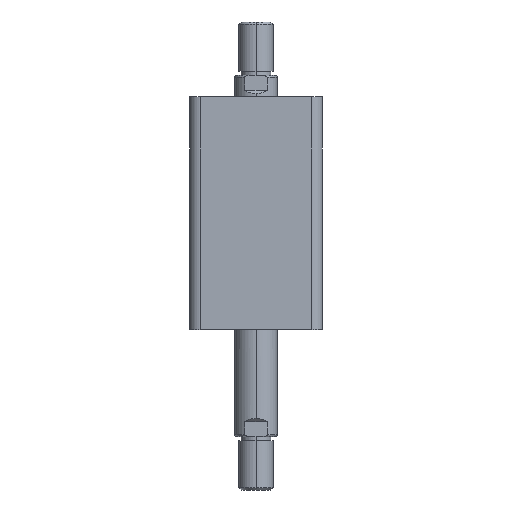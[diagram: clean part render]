
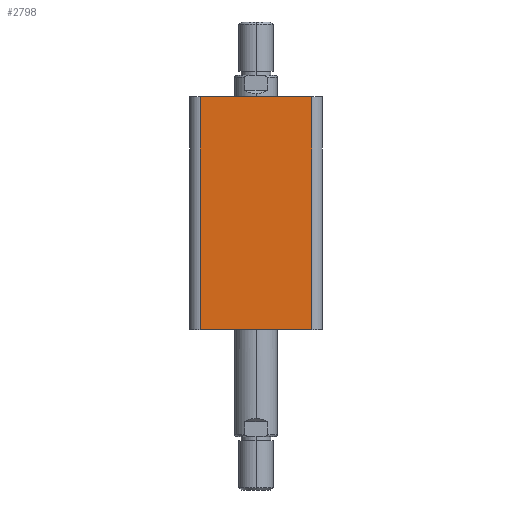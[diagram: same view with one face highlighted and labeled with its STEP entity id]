
A CAD part, left-side view. The second image highlights one B-rep face of the part: STEP entity #2798.
In plain terms, the highlighted planar face has unit normal (-1, 0, 0).
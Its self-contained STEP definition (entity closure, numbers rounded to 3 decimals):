
#229 = FACE_OUTER_BOUND ( 'NONE', #739, .T. ) ;
#486 = EDGE_CURVE ( 'NONE', #2902, #2907, #3084, .T. ) ;
#487 = EDGE_CURVE ( 'NONE', #2902, #2901, #3078, .T. ) ;
#488 = EDGE_CURVE ( 'NONE', #2906, #2901, #3088, .T. ) ;
#489 = EDGE_CURVE ( 'NONE', #2907, #2906, #3090, .T. ) ;
#739 = EDGE_LOOP ( 'NONE', ( #3305, #3306, #3307, #3308 ) ) ;
#1537 = CARTESIAN_POINT ( 'NONE',  ( -31., 31., 109. ) ) ;
#1545 = PLANE ( 'NONE',  #1951 ) ;
#1547 = DIRECTION ( 'NONE',  ( 1., 0., 0. ) ) ;
#1548 = DIRECTION ( 'NONE',  ( 0., 1., 0. ) ) ;
#1702 = CARTESIAN_POINT ( 'NONE',  ( -31., -26., 109. ) ) ;
#1705 = CARTESIAN_POINT ( 'NONE',  ( -31., 26., 109. ) ) ;
#1707 = CARTESIAN_POINT ( 'NONE',  ( -31., -26., 0. ) ) ;
#1708 = CARTESIAN_POINT ( 'NONE',  ( -31., 26., 0. ) ) ;
#1951 = AXIS2_PLACEMENT_3D ( 'NONE', #1537, #1547, #1548 ) ;
#2411 = CARTESIAN_POINT ( 'NONE',  ( -31., 31., 109. ) ) ;
#2421 = CARTESIAN_POINT ( 'NONE',  ( -31., 26., 109. ) ) ;
#2423 = DIRECTION ( 'NONE',  ( 0., 0., -1. ) ) ;
#2424 = DIRECTION ( 'NONE',  ( 0., -1., 0. ) ) ;
#2425 = CARTESIAN_POINT ( 'NONE',  ( -31., -26., 109. ) ) ;
#2426 = DIRECTION ( 'NONE',  ( 0., 0., 1. ) ) ;
#2427 = CARTESIAN_POINT ( 'NONE',  ( -31., 31., 0. ) ) ;
#2428 = DIRECTION ( 'NONE',  ( 0., -1., 0. ) ) ;
#2798 = ADVANCED_FACE ( 'NONE', ( #229 ), #1545, .F. ) ;
#2901 = VERTEX_POINT ( 'NONE', #1702 ) ;
#2902 = VERTEX_POINT ( 'NONE', #1705 ) ;
#2906 = VERTEX_POINT ( 'NONE', #1707 ) ;
#2907 = VERTEX_POINT ( 'NONE', #1708 ) ;
#3078 = LINE ( 'NONE', #2411, #3089 ) ;
#3084 = LINE ( 'NONE', #2421, #3087 ) ;
#3087 = VECTOR ( 'NONE', #2423, 1000. ) ;
#3088 = LINE ( 'NONE', #2425, #3091 ) ;
#3089 = VECTOR ( 'NONE', #2424, 1000. ) ;
#3090 = LINE ( 'NONE', #2427, #3093 ) ;
#3091 = VECTOR ( 'NONE', #2426, 1000. ) ;
#3093 = VECTOR ( 'NONE', #2428, 1000. ) ;
#3305 = ORIENTED_EDGE ( 'NONE', *, *, #489, .T. ) ;
#3306 = ORIENTED_EDGE ( 'NONE', *, *, #488, .T. ) ;
#3307 = ORIENTED_EDGE ( 'NONE', *, *, #487, .F. ) ;
#3308 = ORIENTED_EDGE ( 'NONE', *, *, #486, .T. ) ;
